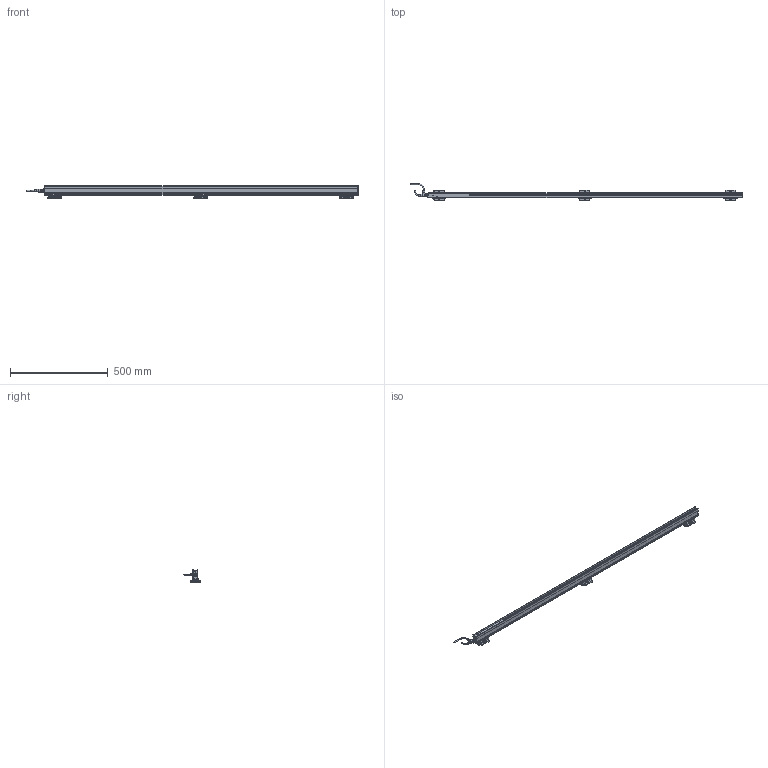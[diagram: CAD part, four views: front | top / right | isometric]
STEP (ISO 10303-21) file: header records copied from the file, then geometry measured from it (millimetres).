
FILE_DESCRIPTION(('Bauteilbeschreibung','HiCAD-Model','HiCAD-STEP-TRANSLATION','Bauteilbeschreibung'),'2;1');
FILE_NAME('PERFORMAXIQEASY_1530-1620_3D.STP','2014-03-05T11:44:57+00:00',('Konstrukteur'),('Konstrukteur Firma GmbH'),' HiCAD 2011, Step 1600.0 ','HiCAD 2011','confidential');
FILE_SCHEMA(('AUTOMOTIVE_DESIGN { 1 2 10303 214 0 1 1 1 }'));
Products named in the file (43): PERFORMAXIQEASY_1530_1620_3D; A_PERFORMAX IQ EASY 1530_1620; A_PERFORMAX IQ EASY SPEED; A_CAP DE; A_CAP CE_5; GROUP; PIN; GROUP0; PIN0; LED_2C_3MM; LED02C03MM; A519020315_CONNECTOR APPLIANCE; A_INSERT; A_CONTACTS; A_HOUSING; A_PROFILE; A_POTTING; A532000100_BRACKET BARS_ MOUNT; A_SIDE PIECE; A0SIDE0PIECE; A_BRACKET SMALL; A_SLIDE PIECE; A5320001000BRACKET0BARS00MOUNT; A0SIDE0PIECE0; A0SIDE0PIECE1; A0BRACKET0SMALL; A0SLIDE0PIECE; A5320001000BRACKET0BARS00MOUNT0; A0SIDE0PIECE2; A0SIDE0PIECE3; A0BRACKET0SMALL0; A0SLIDE0PIECE0; A_CONNECTOR STRAIGHT; EXTRUDED SOLID_0; DRAAD GEBOGEN; REVOLVED SOLID_1; REVOLVED SOLID_3; A_CONNECTOR ANGLED; REVOLVED0SOLID01; EXTRUDED0SOLID00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
Assembly tree (42 placements, depth 5):
  PERFORMAXIQEASY_1530_1620_3D
    A_PERFORMAX IQ EASY 1530_1620
      A_PERFORMAX IQ EASY SPEED
        A_CAP DE
        A_CAP CE_5
        GROUP
          PIN
        GROUP0
          PIN0
        LED_2C_3MM
        LED02C03MM
        A519020315_CONNECTOR APPLIANCE
          A_INSERT
          A_CONTACTS
          A_HOUSING
        A_PROFILE
        A_POTTING
      A532000100_BRACKET BARS_ MOUNT
        A_SIDE PIECE
        A0SIDE0PIECE
        A_BRACKET SMALL
        A_SLIDE PIECE
      A5320001000BRACKET0BARS00MOUNT
        A0SIDE0PIECE0
        A0SIDE0PIECE1
        A0BRACKET0SMALL
        A0SLIDE0PIECE
      A5320001000BRACKET0BARS00MOUNT0
        A0SIDE0PIECE2
        A0SIDE0PIECE3
        A0BRACKET0SMALL0
        A0SLIDE0PIECE0
      A_CONNECTOR STRAIGHT
        EXTRUDED SOLID_0
        DRAAD GEBOGEN
        REVOLVED SOLID_1
        REVOLVED SOLID_3
      A_CONNECTOR ANGLED
        REVOLVED0SOLID01
        EXTRUDED0SOLID00
        C_EDGE SWEEP_0
        REVOLVED SOLID_2
        REVOLVED0SOLID03
Bounding box: 1697.89 x 84.28 x 63.13 mm (x, y, z)
Volume: 1681830.5 mm3; surface area: 424150.2 mm2
Topology: 37 solids, 37 shells, 2679 faces, 6859 edges, 4095 vertices
Faces by surface type: cylinder 1117, plane 1033, sphere 167, torus 158, bspline 128, cone 76
Full cylindrical faces by diameter (mm): 0.8 x10, 1 x5, 2.387 x6, 3 x15, 3.1 x1, 4.2 x2, 5 x4, 5.5 x15, 8 x2, 8.2 x1, 8.4 x2, 8.945 x1, 9 x2, 10.2 x1, 10.5 x3, 11 x1, 12 x3, 12.8 x1, 13.8 x4, 14.5 x3
Entity records: 123325 total; most frequent: CARTESIAN_POINT 28458, DIRECTION 13337, ORIENTED_EDGE 12962, EDGE_CURVE 6481, COLOUR_RGB 6168, PRESENTATION_STYLE_ASSIGNMENT 6168, OVER_RIDING_STYLED_ITEM 6136, CURVE_STYLE 6131
